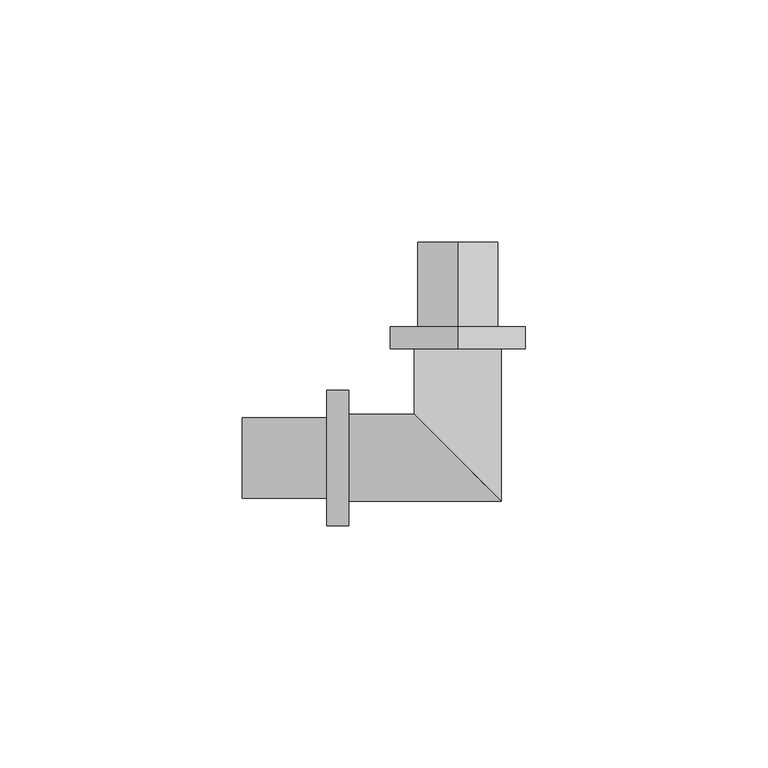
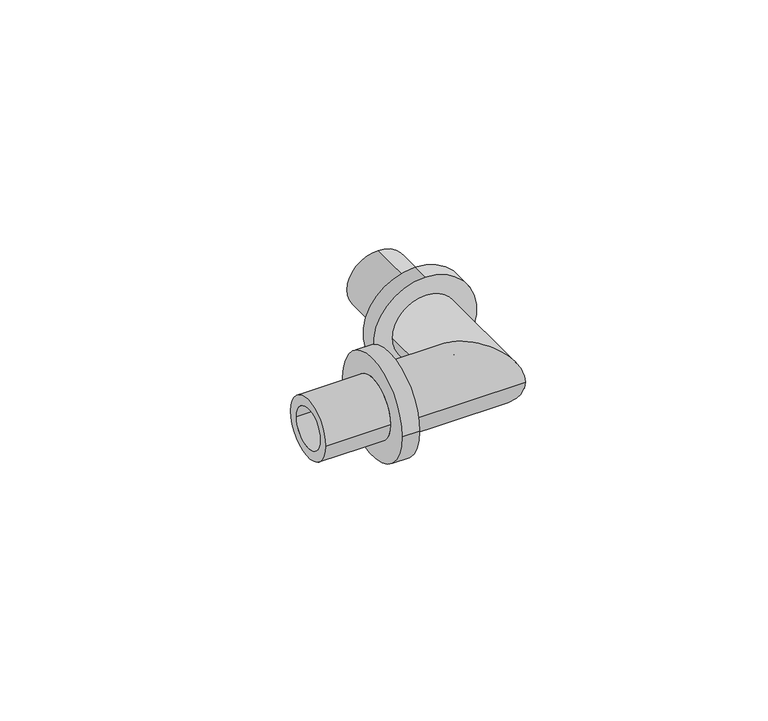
"""IFC4 building model written with IfcOpenShell, lengths in millimetres: pipe fitting geometry, RAUTITAN_Corner_PX : RTI PX C DN."""

from ifc_helpers import new_model, si_unit, frame, origin, place, context, project, spatial, polyline, circle_curve, ellipse_curve, source, transform, mapped, element, save
from ifc_brep_helpers import plane_surface, cylinder_surface, revolved_surface, advanced_brep


def pipe_fitting_d467e3ce(model_context):
    return source(origin(), model_context, "Body", "AdvancedBrep", [
        advanced_brep(
        [(0.0, 27.1, 14.0), (0.0, 27.1, -14.0), (0.0, 22.5, -14.0), (0.0, 22.5, 14.0), (0.0, 44.5, 8.3), (0.0, 44.5, -8.3), (0.0, 27.1, -8.3), (0.0, 27.1, 8.3), (0.0, 22.5, 5.6), (0.0, 22.5, -5.6), (0.0, 44.5, -5.6), (0.0, 44.5, 5.6)],
        [
            (0, 1, circle_curve(frame((0.0, 27.1, 0.0), z_axis=(0.0, -1.0, 0.0), x_axis=(0.0, 0.0, -1.0)), 14.0)),
            (1, 2),
            (2, 3, circle_curve(frame((0.0, 22.5, 0.0), z_axis=(0.0, 1.0, 0.0), x_axis=(0.0, 0.0, -1.0)), 14.0)),
            (3, 0),
            (4, 5, circle_curve(frame((0.0, 44.5, 0.0), z_axis=(0.0, -1.0, 0.0), x_axis=(0.0, 0.0, -1.0)), 8.3)),
            (5, 6),
            (6, 7, circle_curve(frame((0.0, 27.1, 0.0), z_axis=(0.0, 1.0, 0.0), x_axis=(0.0, 0.0, -1.0)), 8.3)),
            (7, 4),
            (8, 9, circle_curve(frame((0.0, 22.5, 0.0), z_axis=(0.0, -1.0, 0.0), x_axis=(0.0, 0.0, -1.0)), 5.6)),
            (9, 10),
            (10, 11, circle_curve(frame((0.0, 44.5, 0.0), z_axis=(0.0, 1.0, 0.0), x_axis=(0.0, 0.0, -1.0)), 5.6)),
            (11, 8),
            (1, 0, circle_curve(frame((0.0, 27.1, 0.0), z_axis=(0.0, -1.0, 0.0), x_axis=(0.0, 0.0, 1.0)), 14.0)),
            (3, 2, circle_curve(frame((0.0, 22.5, 0.0), z_axis=(0.0, 1.0, 0.0), x_axis=(0.0, 0.0, 1.0)), 14.0)),
            (6, 7, circle_curve(frame((0.0, 27.1, 0.0), z_axis=(0.0, -1.0, 0.0), x_axis=(0.0, 0.0, 1.0)), 8.3)),
            (5, 4, circle_curve(frame((0.0, 44.5, 0.0), z_axis=(0.0, -1.0, 0.0), x_axis=(0.0, 0.0, 1.0)), 8.3)),
            (10, 11, circle_curve(frame((0.0, 44.5, 0.0), z_axis=(0.0, -1.0, 0.0), x_axis=(0.0, 0.0, 1.0)), 5.6)),
            (9, 8, circle_curve(frame((0.0, 22.5, 0.0), z_axis=(0.0, -1.0, 0.0), x_axis=(0.0, 0.0, 1.0)), 5.6)),
        ],
        [
            cylinder_surface(frame((0.0, 22.5, 0.0), z_axis=(0.0, 1.0, 0.0), x_axis=(0.0, 0.0, -1.0)), 14.0),
            cylinder_surface(frame((0.0, 22.5, 0.0), z_axis=(0.0, 1.0, 0.0), x_axis=(0.0, 0.0, -1.0)), 8.3),
            revolved_surface(polyline([(0.0, 44.5, -5.6), (0.0, 22.5, -5.6)]), (0.0, 22.5, 0.0), (0.0, 1.0, 0.0)),
            cylinder_surface(frame((0.0, 22.5, 0.0), z_axis=(0.0, 1.0, 0.0), x_axis=(0.0, 0.0, 1.0)), 14.0),
            plane_surface(frame((0.0, 27.1, 0.0), z_axis=(0.0, 1.0, 0.0), x_axis=(0.0, 0.0, 1.0))),
            cylinder_surface(frame((0.0, 22.5, 0.0), z_axis=(0.0, 1.0, 0.0), x_axis=(0.0, 0.0, 1.0)), 8.3),
            plane_surface(frame((0.0, 44.5, 0.0), z_axis=(0.0, 1.0, 0.0), x_axis=(0.0, 0.0, 1.0))),
            revolved_surface(polyline([(0.0, 44.5, 5.6), (0.0, 22.5, 5.6)]), (0.0, 22.5, 0.0), (0.0, 1.0, 0.0)),
            plane_surface(frame((0.0, 22.5, 0.0), z_axis=(0.0, -1.0, 0.0), x_axis=(0.0, 0.0, 1.0))),
        ],
        [
            (0, [[1, 2, 3, 4]]),
            (1, [[5, 6, 7, 8]]),
            (2, [[9, 10, 11, 12]]),
            (3, [[13, -4, 14, -2]]),
            (4, [[-13, -1], [15, -7]]),
            (5, [[16, -8, -15, -6]]),
            (6, [[-16, -5], [17, -11]]),
            (7, [[18, -12, -17, -10]]),
            (8, [[-14, -3], [-18, -9]]),
        ],
    ),
        advanced_brep(
        [(-27.1, -14.0, 0.0), (-27.1, 14.0, 0.0), (-22.5, 14.0, 0.0), (-22.5, -14.0, 0.0), (-44.5, -8.3, 0.0), (-44.5, 8.3, 0.0), (-27.1, 8.3, 0.0), (-27.1, -8.3, 0.0), (-22.5, -5.6, 0.0), (-22.5, 5.6, 0.0), (-44.5, 5.6, 0.0), (-44.5, -5.6, 0.0)],
        [
            (0, 1, circle_curve(frame((-27.1, 0.0, 0.0), z_axis=(1.0, 0.0, 0.0), x_axis=(0.0, 1.0, 0.0)), 14.0)),
            (1, 2),
            (2, 3, circle_curve(frame((-22.5, 0.0, 0.0), z_axis=(-1.0, 0.0, 0.0), x_axis=(0.0, 1.0, 0.0)), 14.0)),
            (3, 0),
            (4, 5, circle_curve(frame((-44.5, 0.0, 0.0), z_axis=(1.0, 0.0, 0.0), x_axis=(0.0, 1.0, 0.0)), 8.3)),
            (5, 6),
            (6, 7, circle_curve(frame((-27.1, 0.0, 0.0), z_axis=(-1.0, 0.0, 0.0), x_axis=(0.0, 1.0, 0.0)), 8.3)),
            (7, 4),
            (8, 9, circle_curve(frame((-22.5, 0.0, 0.0), z_axis=(1.0, 0.0, 0.0), x_axis=(0.0, 1.0, 0.0)), 5.6)),
            (9, 10),
            (10, 11, circle_curve(frame((-44.5, 0.0, 0.0), z_axis=(-1.0, 0.0, 0.0), x_axis=(0.0, 1.0, 0.0)), 5.6)),
            (11, 8),
            (1, 0, circle_curve(frame((-27.1, 0.0, 0.0), z_axis=(1.0, 0.0, 0.0), x_axis=(0.0, -1.0, 0.0)), 14.0)),
            (3, 2, circle_curve(frame((-22.5, 0.0, 0.0), z_axis=(-1.0, 0.0, 0.0), x_axis=(0.0, -1.0, 0.0)), 14.0)),
            (6, 7, circle_curve(frame((-27.1, 0.0, 0.0), z_axis=(1.0, 0.0, 0.0), x_axis=(0.0, -1.0, 0.0)), 8.3)),
            (5, 4, circle_curve(frame((-44.5, 0.0, 0.0), z_axis=(1.0, 0.0, 0.0), x_axis=(0.0, -1.0, 0.0)), 8.3)),
            (10, 11, circle_curve(frame((-44.5, 0.0, 0.0), z_axis=(1.0, 0.0, 0.0), x_axis=(0.0, -1.0, 0.0)), 5.6)),
            (9, 8, circle_curve(frame((-22.5, 0.0, 0.0), z_axis=(1.0, 0.0, 0.0), x_axis=(0.0, -1.0, 0.0)), 5.6)),
        ],
        [
            cylinder_surface(frame((-22.5, 0.0, 0.0), z_axis=(-1.0, 0.0, 0.0), x_axis=(0.0, 1.0, 0.0)), 14.0),
            cylinder_surface(frame((-22.5, 0.0, 0.0), z_axis=(-1.0, 0.0, 0.0), x_axis=(0.0, 1.0, 0.0)), 8.3),
            revolved_surface(polyline([(-44.5, 5.6, 0.0), (-22.5, 5.6, 0.0)]), (-22.5, 0.0, 0.0), (-1.0, 0.0, 0.0)),
            cylinder_surface(frame((-22.5, 0.0, 0.0), z_axis=(-1.0, 0.0, 0.0), x_axis=(0.0, -1.0, 0.0)), 14.0),
            plane_surface(frame((-27.1, 0.0, 0.0), z_axis=(-1.0, 0.0, 0.0), x_axis=(0.0, -1.0, 0.0))),
            cylinder_surface(frame((-22.5, 0.0, 0.0), z_axis=(-1.0, 0.0, 0.0), x_axis=(0.0, -1.0, 0.0)), 8.3),
            plane_surface(frame((-44.5, 0.0, 0.0), z_axis=(-1.0, 0.0, 0.0), x_axis=(0.0, -1.0, 0.0))),
            revolved_surface(polyline([(-44.5, -5.6, 0.0), (-22.5, -5.6, 0.0)]), (-22.5, 0.0, 0.0), (-1.0, 0.0, 0.0)),
            plane_surface(frame((-22.5, 0.0, 0.0), z_axis=(1.0, 0.0, 0.0), x_axis=(0.0, -1.0, 0.0))),
        ],
        [
            (0, [[1, 2, 3, 4]]),
            (1, [[5, 6, 7, 8]]),
            (2, [[9, 10, 11, 12]]),
            (3, [[13, -4, 14, -2]]),
            (4, [[-13, -1], [15, -7]]),
            (5, [[16, -8, -15, -6]]),
            (6, [[-16, -5], [17, -11]]),
            (7, [[18, -12, -17, -10]]),
            (8, [[-14, -3], [-18, -9]]),
        ],
    ),
        advanced_brep(
        [(-22.5, -9.0, 0.0), (-22.5, 9.0, 0.0), (-22.5, -5.6, 0.0), (-22.5, 5.6, 0.0), (-5.6, 5.6, 0.0), (5.6, -5.6, 0.0), (9.0, 22.5, 0.0), (-9.0, 22.5, 0.0), (5.6, 22.5, 0.0), (-5.6, 22.5, 0.0), (9.0, -9.0, 0.0), (-9.0, 9.0, 0.0)],
        [
            (0, 1, circle_curve(frame((-22.5, 0.0, 0.0), z_axis=(-1.0, 0.0, 0.0), x_axis=(0.0, 1.0, 0.0)), 9.0)),
            (1, 0, circle_curve(frame((-22.5, 0.0, 0.0), z_axis=(-1.0, 0.0, 0.0), x_axis=(0.0, 1.0, 0.0)), 9.0)),
            (2, 3, circle_curve(frame((-22.5, 0.0, 0.0), z_axis=(1.0, 0.0, 0.0), x_axis=(0.0, 1.0, 0.0)), 5.6)),
            (3, 2, circle_curve(frame((-22.5, 0.0, 0.0), z_axis=(1.0, 0.0, 0.0), x_axis=(0.0, 1.0, 0.0)), 5.6)),
            (3, 4),
            (4, 5, ellipse_curve(frame((0.0, 0.0, 0.0), z_axis=(0.7071067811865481, 0.7071067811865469, 0.0), x_axis=(0.7071067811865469, -0.7071067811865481, 0.0)), 7.9195959, 5.6)),
            (5, 2),
            (5, 4, ellipse_curve(frame((0.0, 0.0, 0.0), z_axis=(0.7071067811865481, 0.7071067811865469, 0.0), x_axis=(0.7071067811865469, -0.7071067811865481, 0.0)), 7.9195959, 5.6)),
            (6, 7, circle_curve(frame((0.0, 22.5, 0.0), z_axis=(0.0, 1.0, 0.0), x_axis=(-1.0, 0.0, 0.0)), 9.0)),
            (7, 6, circle_curve(frame((0.0, 22.5, 0.0), z_axis=(0.0, 1.0, 0.0), x_axis=(-1.0, 0.0, 0.0)), 9.0)),
            (8, 9, circle_curve(frame((0.0, 22.5, 0.0), z_axis=(0.0, -1.0, 0.0), x_axis=(-1.0, 0.0, 0.0)), 5.6)),
            (9, 8, circle_curve(frame((0.0, 22.5, 0.0), z_axis=(0.0, -1.0, 0.0), x_axis=(-1.0, 0.0, 0.0)), 5.6)),
            (4, 9),
            (8, 5),
            (0, 10),
            (10, 11, ellipse_curve(frame((0.0, 0.0, 0.0), z_axis=(-0.7071067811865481, -0.7071067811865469, 0.0), x_axis=(-0.7071067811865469, 0.7071067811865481, 0.0)), 12.7279221, 9.0)),
            (11, 1),
            (11, 10, ellipse_curve(frame((0.0, 0.0, 0.0), z_axis=(-0.7071067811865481, -0.7071067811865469, 0.0), x_axis=(-0.7071067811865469, 0.7071067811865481, 0.0)), 12.7279221, 9.0)),
            (10, 6),
            (7, 11),
        ],
        [
            plane_surface(frame((-22.5, 0.0, 0.0), z_axis=(-1.0, 0.0, 0.0), x_axis=(0.0, 0.0, 1.0))),
            revolved_surface(polyline([(5.600000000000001, 5.6, 0.0), (-22.5, 5.6, 0.0)]), (-22.5, 0.0, 0.0), (1.0, 0.0, 0.0)),
            plane_surface(frame((0.0, 22.5, 0.0), z_axis=(0.0, 1.0, 0.0), x_axis=(0.0, 0.0, 1.0))),
            revolved_surface(polyline([(-5.6, 22.5, 0.0), (-5.6, -5.6, 0.0)]), (0.0, 0.0, 0.0), (0.0, 1.0, 0.0)),
            cylinder_surface(frame((-22.5, 0.0, 0.0), z_axis=(-1.0, 0.0, 0.0), x_axis=(0.0, 1.0, 0.0)), 9.0),
            cylinder_surface(frame((0.0, 0.0, 0.0), z_axis=(0.0, -1.0, 0.0), x_axis=(-1.0, 0.0, 0.0)), 9.0),
        ],
        [
            (0, [[1, 2], [3, 4]]),
            (1, [[-4, 5, 6, 7]]),
            (1, [[-3, -7, 8, -5]]),
            (2, [[9, 10], [11, 12]]),
            (3, [[-6, 13, -11, 14]]),
            (3, [[-8, -14, -12, -13]]),
            (4, [[-1, 15, 16, 17]]),
            (4, [[-2, -17, 18, -15]]),
            (5, [[-16, 19, -10, 20]]),
            (5, [[-18, -20, -9, -19]]),
        ],
    ),
    ])


if __name__ == "__main__":
    model = new_model("IFC4")
    model_context = context("Model", 3, world=origin())
    ifc_project = project(units=[si_unit("LENGTHUNIT", "METRE", prefix="MILLI")], contexts=[model_context])
    site = spatial("IfcSite", under=ifc_project)
    building = spatial("IfcBuilding", under=site)
    placement = place(None, origin())
    pipe_fitting_shape = pipe_fitting_d467e3ce(model_context)
    element("IfcPipeFitting", 1, ObjectType="RAUTITAN_Corner_PX : RTI PX C DN", at=placement, inside=building, context=model_context, shape_type="MappedRepresentation", body=[
        mapped(pipe_fitting_shape, transform((0.0, 0.0, 0.0), x_axis=(1.0, 0.0, 0.0), y_axis=(0.0, 1.0, 0.0), z_axis=(0.0, 0.0, 1.0))),
    ])
    save(model, "model.ifc")
